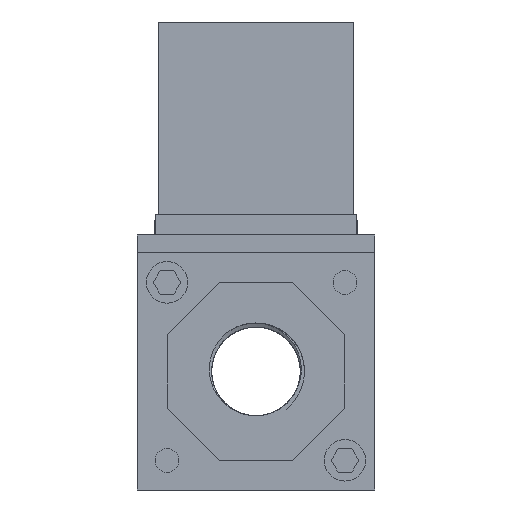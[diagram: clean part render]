
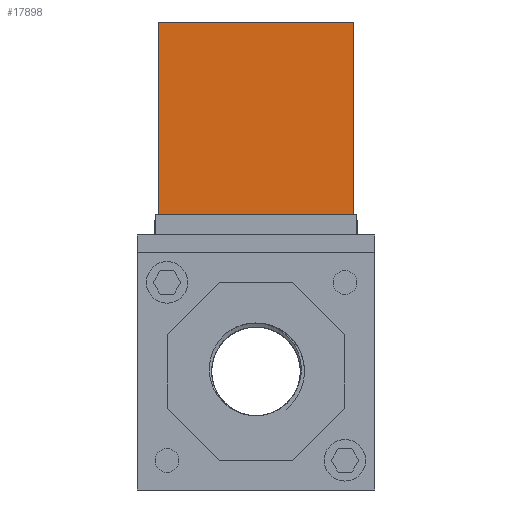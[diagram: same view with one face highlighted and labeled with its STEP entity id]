
A CAD part, left-side view. The second image highlights one B-rep face of the part: STEP entity #17898.
In plain terms, the highlighted planar face has unit normal (-1, 0, 0) as drawn and (1, 0, 0) by its records, which use the part's own axes.
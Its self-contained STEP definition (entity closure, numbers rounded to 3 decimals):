
#493 = DIRECTION ( 'NONE',  ( -1., 0., 0. ) ) ;
#950 = DIRECTION ( 'NONE',  ( 0., 0., -1. ) ) ;
#2538 = CARTESIAN_POINT ( 'NONE',  ( 57., 0., 33. ) ) ;
#2864 = CARTESIAN_POINT ( 'NONE',  ( 57., 0., 0. ) ) ;
#3177 = EDGE_LOOP ( 'NONE', ( #6025, #15892, #4515, #4072 ) ) ;
#4072 = ORIENTED_EDGE ( 'NONE', *, *, #13314, .T. ) ;
#4337 = CARTESIAN_POINT ( 'NONE',  ( 57., 0., 0. ) ) ;
#4515 = ORIENTED_EDGE ( 'NONE', *, *, #7735, .F. ) ;
#4523 = VERTEX_POINT ( 'NONE', #12788 ) ;
#4633 = LINE ( 'NONE', #4746, #12250 ) ;
#4746 = CARTESIAN_POINT ( 'NONE',  ( 57., 32.4, 33. ) ) ;
#6025 = ORIENTED_EDGE ( 'NONE', *, *, #15342, .T. ) ;
#7605 = LINE ( 'NONE', #2538, #18623 ) ;
#7630 = FACE_OUTER_BOUND ( 'NONE', #3177, .T. ) ;
#7735 = EDGE_CURVE ( 'NONE', #4523, #12893, #7605, .T. ) ;
#8700 = VECTOR ( 'NONE', #19892, 1000. ) ;
#12022 = DIRECTION ( 'NONE',  ( 0., 0., -1. ) ) ;
#12250 = VECTOR ( 'NONE', #950, 1000. ) ;
#12635 = AXIS2_PLACEMENT_3D ( 'NONE', #16280, #493, #21701 ) ;
#12771 = VERTEX_POINT ( 'NONE', #20949 ) ;
#12788 = CARTESIAN_POINT ( 'NONE',  ( 57., 0., 33. ) ) ;
#12893 = VERTEX_POINT ( 'NONE', #17603 ) ;
#13314 = EDGE_CURVE ( 'NONE', #4523, #16227, #17543, .T. ) ;
#14441 = PLANE ( 'NONE',  #12635 ) ;
#15342 = EDGE_CURVE ( 'NONE', #16227, #12771, #20128, .T. ) ;
#15892 = ORIENTED_EDGE ( 'NONE', *, *, #18052, .F. ) ;
#16227 = VERTEX_POINT ( 'NONE', #2864 ) ;
#16280 = CARTESIAN_POINT ( 'NONE',  ( 57., 0., 33. ) ) ;
#16716 = DIRECTION ( 'NONE',  ( 0., 1., 0. ) ) ;
#17543 = LINE ( 'NONE', #22730, #20098 ) ;
#17603 = CARTESIAN_POINT ( 'NONE',  ( 57., 32.4, 33. ) ) ;
#17898 = ADVANCED_FACE ( 'NONE', ( #7630 ), #14441, .F. ) ;
#18052 = EDGE_CURVE ( 'NONE', #12893, #12771, #4633, .T. ) ;
#18623 = VECTOR ( 'NONE', #16716, 1000. ) ;
#19892 = DIRECTION ( 'NONE',  ( 0., 1., 0. ) ) ;
#20098 = VECTOR ( 'NONE', #12022, 1000. ) ;
#20128 = LINE ( 'NONE', #4337, #8700 ) ;
#20949 = CARTESIAN_POINT ( 'NONE',  ( 57., 32.4, 0. ) ) ;
#21701 = DIRECTION ( 'NONE',  ( 0., 0., 1. ) ) ;
#22730 = CARTESIAN_POINT ( 'NONE',  ( 57., 0., 33. ) ) ;
